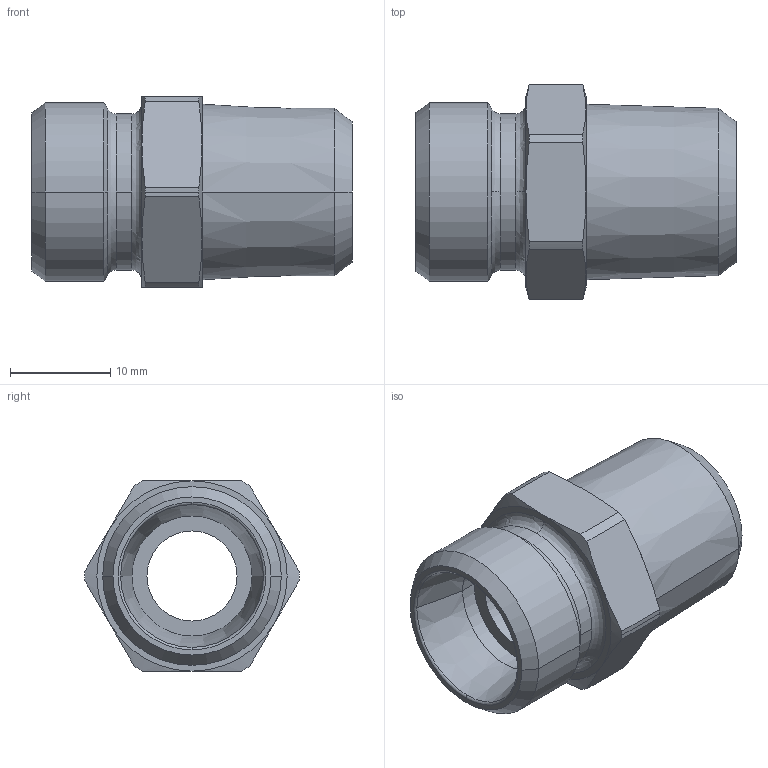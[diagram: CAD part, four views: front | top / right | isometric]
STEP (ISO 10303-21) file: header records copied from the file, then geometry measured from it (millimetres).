
FILE_DESCRIPTION((''),'2;1');
FILE_NAME('101807.stp','2007-10-30T16:16:24',(''),(''),'AutoCAD STEP 2000i','AutoCAD 2000i',', , ');
FILE_SCHEMA(('CONFIG_CONTROL_DESIGN'));
Length unit declared in the file: millimetre
Products named in the file (2): 101807.0; CHIAVE SMUSSATA#0
Assembly tree (1 placements, depth 2):
  101807.0
    CHIAVE SMUSSATA#0
Bounding box: 32 x 21.4 x 19 mm (x, y, z)
Volume: 5182.1 mm3; surface area: 3144.9 mm2
Topology: 1 solids, 1 shells, 59 faces, 143 edges, 89 vertices
Faces by surface type: cone 24, cylinder 16, plane 11, bspline 6, torus 2
Entity records: 2079 total; most frequent: CARTESIAN_POINT 605, DIRECTION 314, ORIENTED_EDGE 286, EDGE_CURVE 143, AXIS2_PLACEMENT_3D 140, VERTEX_POINT 89, CIRCLE 85, EDGE_LOOP 64
